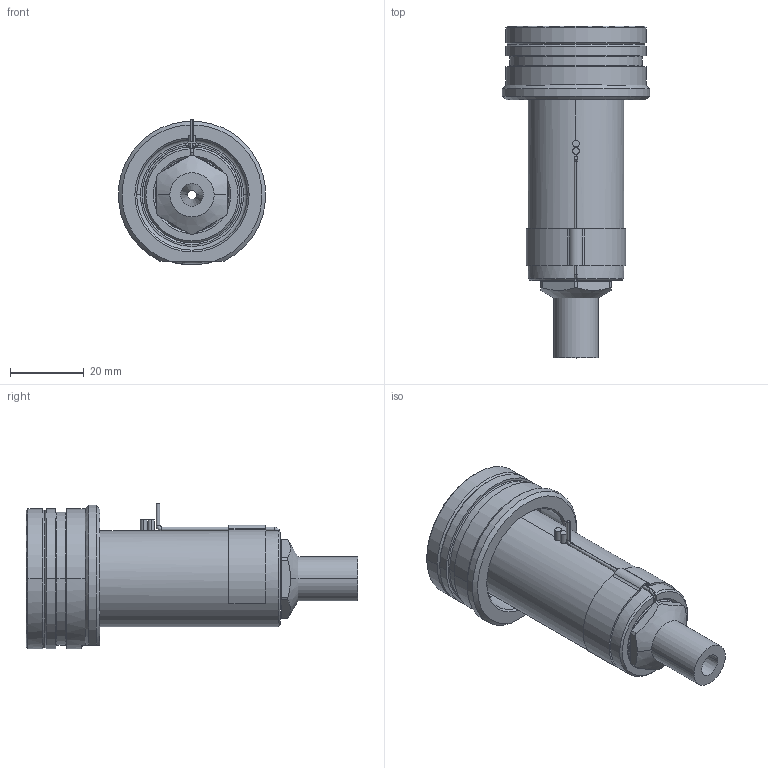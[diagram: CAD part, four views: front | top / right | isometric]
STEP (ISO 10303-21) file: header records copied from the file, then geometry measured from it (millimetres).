
FILE_DESCRIPTION((''),'2;1');
FILE_NAME('EO08_SG_ESG_060_SW','2024-02-19T12:21:22',('sundharh'),(''),'CREO PARAMETRIC BY PTC INC, 2023154','CREO PARAMETRIC BY PTC INC, 2023154','');
FILE_SCHEMA(('CONFIG_CONTROL_DESIGN'));
Length unit declared in the file: millimetre
Products named in the file (1): EO08_SG_ESG_060_SW
Bounding box: 39.88 x 90 x 39.52 mm (x, y, z)
Volume: 45639.9 mm3; surface area: 14840.5 mm2
Topology: 1 solids, 1 shells, 167 faces, 419 edges, 256 vertices
Faces by surface type: cylinder 64, plane 44, cone 33, torus 19, bspline 4, sphere 3
Entity records: 6118 total; most frequent: CARTESIAN_POINT 2045, DIRECTION 895, ORIENTED_EDGE 826, EDGE_CURVE 413, AXIS2_PLACEMENT_3D 370, VERTEX_POINT 256, CIRCLE 207, EDGE_LOOP 183
